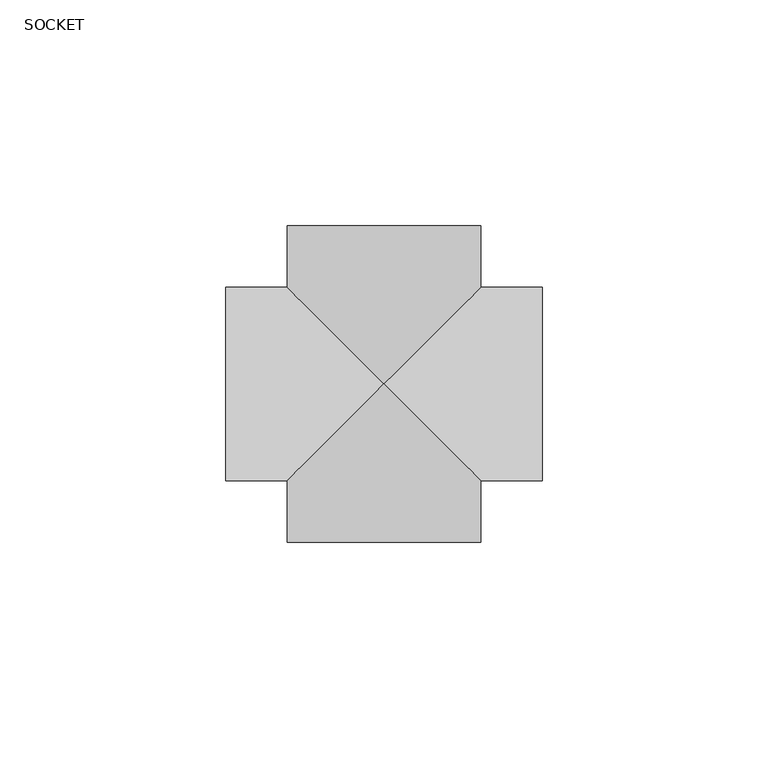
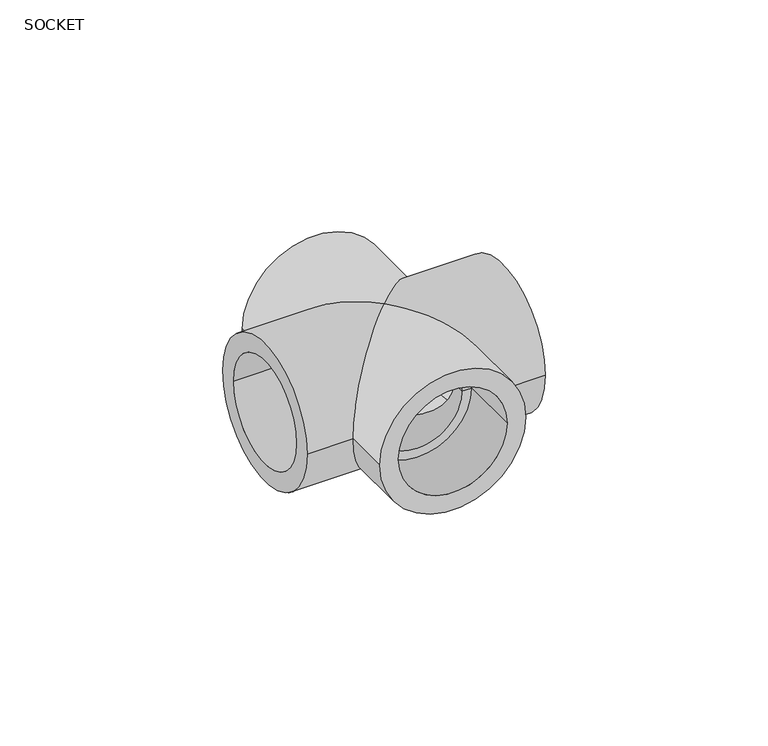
"""IFC4 building model written with IfcOpenShell, lengths in millimetres: pipe fitting geometry, Aquatherm - Cross Socket : SOCKET."""

from ifc_helpers import new_model, si_unit, frame, origin, place, context, project, spatial, polyline, circle_curve, ellipse_curve, source, transform, mapped, element, save
from ifc_brep_helpers import plane_surface, cylinder_surface, revolved_surface, advanced_brep


def socket_0323a94f(model_context):
    return source(origin(), model_context, "Body", "AdvancedBrep", [
        advanced_brep(
        [(-21.463, -35.052, 0.0), (21.463, -35.052, 0.0), (16.002, -35.052, 0.0), (-16.002, -35.052, 0.0), (-21.463, 35.052, 0.0), (21.463, 35.052, 0.0), (-16.002, 35.052, 0.0), (16.002, 35.052, 0.0), (-21.463, -21.463, 0.0), (0.0, 0.0, -21.463), (21.463, -21.463, 0.0), (21.463, 21.463, 0.0), (-21.463, 21.463, 0.0), (0.0, 0.0, 21.463), (35.052, -21.463, 0.0), (35.052, 21.463, 0.0), (35.052, 16.002, 0.0), (35.052, -16.002, 0.0), (-35.052, -21.463, 0.0), (-35.052, 21.463, 0.0), (-35.052, -16.002, 0.0), (-35.052, 16.002, 0.0), (-17.018, -16.002, 0.0), (-17.018, 16.002, 0.0), (17.018, -16.002, 0.0), (17.018, 16.002, 0.0), (17.018, 13.0925455, 0.0), (17.018, -13.0925455, 0.0), (13.0925455, 13.0925455, 0.0), (0.0, 0.0, -13.0925455), (13.0925455, -13.0925455, 0.0), (-17.018, 13.0925455, 0.0), (-17.018, -13.0925455, 0.0), (-13.0925455, -13.0925455, 0.0), (-13.0925455, 13.0925455, 0.0), (0.0, 0.0, 13.0925455), (-16.002, -17.018, 0.0), (16.002, -17.018, 0.0), (-16.002, 17.018, 0.0), (16.002, 17.018, 0.0), (-13.0925455, 17.018, 0.0), (13.0925455, 17.018, 0.0), (-13.0925455, -17.018, 0.0), (13.0925455, -17.018, 0.0)],
        [
            (0, 1, circle_curve(frame((0.0, -35.052, 0.0), z_axis=(0.0, -1.0, 0.0), x_axis=(1.0, 0.0, 0.0)), 21.463)),
            (1, 0, circle_curve(frame((0.0, -35.052, 0.0), z_axis=(0.0, -1.0, 0.0), x_axis=(1.0, 0.0, 0.0)), 21.463)),
            (2, 3, circle_curve(frame((0.0, -35.052, 0.0), z_axis=(0.0, 1.0, 0.0), x_axis=(1.0, 0.0, 0.0)), 16.002)),
            (3, 2, circle_curve(frame((0.0, -35.052, 0.0), z_axis=(0.0, 1.0, 0.0), x_axis=(1.0, 0.0, 0.0)), 16.002)),
            (4, 5, circle_curve(frame((0.0, 35.052, 0.0), z_axis=(0.0, 1.0, 0.0), x_axis=(1.0, 0.0, 0.0)), 21.463)),
            (5, 4, circle_curve(frame((0.0, 35.052, 0.0), z_axis=(0.0, 1.0, 0.0), x_axis=(1.0, 0.0, 0.0)), 21.463)),
            (6, 7, circle_curve(frame((0.0, 35.052, 0.0), z_axis=(0.0, -1.0, 0.0), x_axis=(1.0, 0.0, 0.0)), 16.002)),
            (7, 6, circle_curve(frame((0.0, 35.052, 0.0), z_axis=(0.0, -1.0, 0.0), x_axis=(1.0, 0.0, 0.0)), 16.002)),
            (0, 8),
            (8, 9, ellipse_curve(frame((0.0, 0.0, 0.0), z_axis=(0.7071067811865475, -0.7071067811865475, 0.0), x_axis=(-0.7071067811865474, -0.7071067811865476, 0.0)), 30.3532657, 21.463)),
            (9, 10, ellipse_curve(frame((0.0, 0.0, 0.0), z_axis=(-0.7071067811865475, -0.7071067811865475, 0.0), x_axis=(0.7071067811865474, -0.7071067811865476, 0.0)), 30.3532657, 21.463)),
            (10, 1),
            (5, 11),
            (11, 9, ellipse_curve(frame((0.0, 0.0, 0.0), z_axis=(-0.7071067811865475, 0.7071067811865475, 0.0), x_axis=(-0.7071067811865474, -0.7071067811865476, 0.0)), 30.3532657, 21.463)),
            (9, 12, ellipse_curve(frame((0.0, 0.0, 0.0), z_axis=(0.7071067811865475, 0.7071067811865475, 0.0), x_axis=(0.7071067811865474, -0.7071067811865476, 0.0)), 30.3532657, 21.463)),
            (12, 4),
            (10, 13, ellipse_curve(frame((0.0, 0.0, 0.0), z_axis=(-0.7071067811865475, -0.7071067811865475, 0.0), x_axis=(0.7071067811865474, -0.7071067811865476, 0.0)), 30.3532657, 21.463)),
            (13, 8, ellipse_curve(frame((0.0, 0.0, 0.0), z_axis=(0.7071067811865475, -0.7071067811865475, 0.0), x_axis=(-0.7071067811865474, -0.7071067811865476, 0.0)), 30.3532657, 21.463)),
            (12, 13, ellipse_curve(frame((0.0, 0.0, 0.0), z_axis=(0.7071067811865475, 0.7071067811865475, 0.0), x_axis=(0.7071067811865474, -0.7071067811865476, 0.0)), 30.3532657, 21.463)),
            (13, 11, ellipse_curve(frame((0.0, 0.0, 0.0), z_axis=(-0.7071067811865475, 0.7071067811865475, 0.0), x_axis=(-0.7071067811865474, -0.7071067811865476, 0.0)), 30.3532657, 21.463)),
            (14, 15, circle_curve(frame((35.052, 0.0, 0.0), z_axis=(1.0, 0.0, 0.0), x_axis=(0.0, 1.0, 0.0)), 21.463)),
            (15, 14, circle_curve(frame((35.052, 0.0, 0.0), z_axis=(1.0, 0.0, 0.0), x_axis=(0.0, 1.0, 0.0)), 21.463)),
            (16, 17, circle_curve(frame((35.052, 0.0, 0.0), z_axis=(-1.0, 0.0, 0.0), x_axis=(0.0, 1.0, 0.0)), 16.002)),
            (17, 16, circle_curve(frame((35.052, 0.0, 0.0), z_axis=(-1.0, 0.0, 0.0), x_axis=(0.0, 1.0, 0.0)), 16.002)),
            (18, 19, circle_curve(frame((-35.052, 0.0, 0.0), z_axis=(-1.0, 0.0, 0.0), x_axis=(0.0, 1.0, 0.0)), 21.463)),
            (19, 18, circle_curve(frame((-35.052, 0.0, 0.0), z_axis=(-1.0, 0.0, 0.0), x_axis=(0.0, 1.0, 0.0)), 21.463)),
            (20, 21, circle_curve(frame((-35.052, 0.0, 0.0), z_axis=(1.0, 0.0, 0.0), x_axis=(0.0, 1.0, 0.0)), 16.002)),
            (21, 20, circle_curve(frame((-35.052, 0.0, 0.0), z_axis=(1.0, 0.0, 0.0), x_axis=(0.0, 1.0, 0.0)), 16.002)),
            (14, 10),
            (11, 15),
            (19, 12),
            (8, 18),
            (20, 22),
            (22, 23, circle_curve(frame((-17.018, 0.0, 0.0), z_axis=(1.0, 0.0, 0.0), x_axis=(0.0, 1.0, 0.0)), 16.002)),
            (23, 21),
            (23, 22, circle_curve(frame((-17.018, 0.0, 0.0), z_axis=(1.0, 0.0, 0.0), x_axis=(0.0, 1.0, 0.0)), 16.002)),
            (24, 17),
            (16, 25),
            (25, 24, circle_curve(frame((17.018, 0.0, 0.0), z_axis=(-1.0, 0.0, 0.0), x_axis=(0.0, 1.0, 0.0)), 16.002)),
            (24, 25, circle_curve(frame((17.018, 0.0, 0.0), z_axis=(-1.0, 0.0, 0.0), x_axis=(0.0, 1.0, 0.0)), 16.002)),
            (25, 26),
            (26, 27, circle_curve(frame((17.018, 0.0, 0.0), z_axis=(-1.0, 0.0, 0.0), x_axis=(0.0, 1.0, 0.0)), 13.0925455)),
            (27, 24),
            (27, 26, circle_curve(frame((17.018, 0.0, 0.0), z_axis=(-1.0, 0.0, 0.0), x_axis=(0.0, 1.0, 0.0)), 13.0925455)),
            (26, 28),
            (28, 29, ellipse_curve(frame((0.0, 0.0, 0.0), z_axis=(-0.7071067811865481, 0.7071067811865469, 0.0), x_axis=(-0.7071067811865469, -0.7071067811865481, 0.0)), 18.5156553, 13.0925455)),
            (29, 30, ellipse_curve(frame((0.0, 0.0, 0.0), z_axis=(-0.7071067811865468, -0.7071067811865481, 0.0), x_axis=(-0.7071067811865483, 0.7071067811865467, 0.0)), 18.5156553, 13.0925455)),
            (30, 27),
            (31, 32, circle_curve(frame((-17.018, 0.0, 0.0), z_axis=(-1.0, 0.0, 0.0), x_axis=(0.0, 1.0, 0.0)), 13.0925455)),
            (32, 33),
            (33, 29, ellipse_curve(frame((0.0, 0.0, 0.0), z_axis=(0.7071067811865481, -0.7071067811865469, 0.0), x_axis=(-0.7071067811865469, -0.7071067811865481, 0.0)), 18.5156553, 13.0925455)),
            (29, 34, ellipse_curve(frame((0.0, 0.0, 0.0), z_axis=(0.7071067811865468, 0.7071067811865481, 0.0), x_axis=(-0.7071067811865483, 0.7071067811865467, 0.0)), 18.5156553, 13.0925455)),
            (34, 31),
            (30, 35, ellipse_curve(frame((0.0, 0.0, 0.0), z_axis=(-0.7071067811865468, -0.7071067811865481, 0.0), x_axis=(-0.7071067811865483, 0.7071067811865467, 0.0)), 18.5156553, 13.0925455)),
            (35, 28, ellipse_curve(frame((0.0, 0.0, 0.0), z_axis=(-0.7071067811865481, 0.7071067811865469, 0.0), x_axis=(-0.7071067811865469, -0.7071067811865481, 0.0)), 18.5156553, 13.0925455)),
            (32, 31, circle_curve(frame((-17.018, 0.0, 0.0), z_axis=(-1.0, 0.0, 0.0), x_axis=(0.0, 1.0, 0.0)), 13.0925455)),
            (34, 35, ellipse_curve(frame((0.0, 0.0, 0.0), z_axis=(0.7071067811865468, 0.7071067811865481, 0.0), x_axis=(-0.7071067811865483, 0.7071067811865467, 0.0)), 18.5156553, 13.0925455)),
            (35, 33, ellipse_curve(frame((0.0, 0.0, 0.0), z_axis=(0.7071067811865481, -0.7071067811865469, 0.0), x_axis=(-0.7071067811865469, -0.7071067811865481, 0.0)), 18.5156553, 13.0925455)),
            (22, 32),
            (31, 23),
            (36, 3),
            (2, 37),
            (37, 36, circle_curve(frame((0.0, -17.018, 0.0), z_axis=(0.0, 1.0, 0.0), x_axis=(1.0, 0.0, 0.0)), 16.002)),
            (36, 37, circle_curve(frame((0.0, -17.018, 0.0), z_axis=(0.0, 1.0, 0.0), x_axis=(1.0, 0.0, 0.0)), 16.002)),
            (6, 38),
            (38, 39, circle_curve(frame((0.0, 17.018, 0.0), z_axis=(0.0, -1.0, 0.0), x_axis=(1.0, 0.0, 0.0)), 16.002)),
            (39, 7),
            (39, 38, circle_curve(frame((0.0, 17.018, 0.0), z_axis=(0.0, -1.0, 0.0), x_axis=(1.0, 0.0, 0.0)), 16.002)),
            (38, 40),
            (40, 41, circle_curve(frame((0.0, 17.018, 0.0), z_axis=(0.0, -1.0, 0.0), x_axis=(1.0, 0.0, 0.0)), 13.0925455)),
            (41, 39),
            (41, 40, circle_curve(frame((0.0, 17.018, 0.0), z_axis=(0.0, -1.0, 0.0), x_axis=(1.0, 0.0, 0.0)), 13.0925455)),
            (40, 34),
            (28, 41),
            (42, 43, circle_curve(frame((0.0, -17.018, 0.0), z_axis=(0.0, -1.0, 0.0), x_axis=(1.0, 0.0, 0.0)), 13.0925455)),
            (43, 30),
            (33, 42),
            (43, 42, circle_curve(frame((0.0, -17.018, 0.0), z_axis=(0.0, -1.0, 0.0), x_axis=(1.0, 0.0, 0.0)), 13.0925455)),
            (37, 43),
            (42, 36),
        ],
        [
            plane_surface(frame((21.463, -35.052, 0.0), z_axis=(0.0, -1.0, 0.0), x_axis=(0.0, 0.0, 1.0))),
            plane_surface(frame((21.463, 35.052, 0.0), z_axis=(0.0, 1.0, 0.0), x_axis=(0.0, 0.0, -1.0))),
            cylinder_surface(frame((0.0, 35.052, 0.0), z_axis=(0.0, -1.0, 0.0), x_axis=(1.0, 0.0, 0.0)), 21.463),
            plane_surface(frame((35.052, 21.463, 0.0), z_axis=(1.0, 0.0, 0.0), x_axis=(0.0, 0.0, 1.0))),
            plane_surface(frame((-35.052, 21.463, 0.0), z_axis=(-1.0, 0.0, 0.0), x_axis=(0.0, 0.0, -1.0))),
            cylinder_surface(frame((-35.052, 0.0, 0.0), z_axis=(1.0, 0.0, 0.0), x_axis=(0.0, 1.0, 0.0)), 21.463),
            revolved_surface(polyline([(-35.052, 16.002, 0.0), (-17.018, 16.002, 0.0)]), (-49.8099939, 0.0, 0.0), (-1.0, 0.0, 0.0)),
            revolved_surface(polyline([(17.017999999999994, 16.002, 0.0), (35.052, 16.002, 0.0)]), (-49.8099939, 0.0, 0.0), (-1.0, 0.0, 0.0)),
            plane_surface(frame((17.018, 0.0, 0.0), z_axis=(1.0, 0.0, 0.0), x_axis=(0.0, 1.0, 0.0))),
            revolved_surface(polyline([(-13.092545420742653, 13.0925455, 0.0), (17.017999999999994, 13.0925455, 0.0)]), (-49.8099939, 0.0, 0.0), (-1.0, 0.0, 0.0)),
            revolved_surface(polyline([(-17.018, 13.0925455, 0.0), (13.092545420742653, 13.0925455, 0.0)]), (-49.8099939, 0.0, 0.0), (-1.0, 0.0, 0.0)),
            plane_surface(frame((-17.018, 0.0, 0.0), z_axis=(-1.0, 0.0, 0.0), x_axis=(0.0, 1.0, 0.0))),
            revolved_surface(polyline([(16.002, -17.018, 0.0), (16.002, -35.052, 0.0)]), (0.0, -49.8099939, 0.0), (0.0, 1.0, 0.0)),
            revolved_surface(polyline([(16.002, 35.052, 0.0), (16.002, 17.017999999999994, 0.0)]), (0.0, -49.8099939, 0.0), (0.0, 1.0, 0.0)),
            plane_surface(frame((0.0, 17.018, 0.0), z_axis=(0.0, 1.0, 0.0), x_axis=(1.0, 0.0, 0.0))),
            revolved_surface(polyline([(13.0925455, 17.017999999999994, 0.0), (13.0925455, -13.092545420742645, 0.0)]), (0.0, -49.8099939, 0.0), (0.0, 1.0, 0.0)),
            revolved_surface(polyline([(13.0925455, 13.092545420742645, 0.0), (13.0925455, -17.018, 0.0)]), (0.0, -49.8099939, 0.0), (0.0, 1.0, 0.0)),
            plane_surface(frame((0.0, -17.018, 0.0), z_axis=(0.0, -1.0, 0.0), x_axis=(1.0, 0.0, 0.0))),
        ],
        [
            (0, [[1, 2], [3, 4]]),
            (1, [[5, 6], [7, 8]]),
            (2, [[-1, 9, 10, 11, 12]]),
            (2, [[-6, 13, 14, 15, 16]]),
            (2, [[-2, -12, 17, 18, -9]]),
            (2, [[-5, -16, 19, 20, -13]]),
            (3, [[21, 22], [23, 24]]),
            (4, [[25, 26], [27, 28]]),
            (5, [[-21, 29, -11, -14, 30]]),
            (5, [[-26, 31, -15, -10, 32]]),
            (5, [[-22, -30, -20, -17, -29]]),
            (5, [[-25, -32, -18, -19, -31]]),
            (6, [[33, 34, 35, -27]]),
            (6, [[-33, -28, -35, 36]]),
            (7, [[37, -23, 38, 39]]),
            (7, [[-37, 40, -38, -24]]),
            (8, [[-39, 41, 42, 43]]),
            (8, [[-40, -43, 44, -41]]),
            (9, [[-42, 45, 46, 47, 48]]),
            (10, [[49, 50, 51, 52, 53]]),
            (9, [[-44, -48, 54, 55, -45]]),
            (10, [[56, -53, 57, 58, -50]]),
            (11, [[-34, 59, -49, 60]]),
            (11, [[-36, -60, -56, -59]]),
            (12, [[61, -3, 62, 63]]),
            (12, [[-61, 64, -62, -4]]),
            (13, [[65, 66, 67, -7]]),
            (13, [[-65, -8, -67, 68]]),
            (14, [[-66, 69, 70, 71]]),
            (14, [[-68, -71, 72, -69]]),
            (15, [[-70, 73, -52, -46, 74]]),
            (16, [[75, 76, -47, -51, 77]]),
            (15, [[-72, -74, -55, -57, -73]]),
            (16, [[78, -77, -58, -54, -76]]),
            (17, [[-63, 79, -75, 80]]),
            (17, [[-64, -80, -78, -79]]),
        ],
    ),
    ])


if __name__ == "__main__":
    model = new_model("IFC4")
    model_context = context("Model", 3, world=origin())
    ifc_project = project(units=[si_unit("LENGTHUNIT", "METRE", prefix="MILLI")], contexts=[model_context])
    site = spatial("IfcSite", under=ifc_project)
    building = spatial("IfcBuilding", under=site)
    placement = place(None, origin())
    ifc_socket_shape = socket_0323a94f(model_context)
    element("IfcPipeFitting", 1, ObjectType="Aquatherm - Cross Socket : SOCKET", at=placement, inside=building, context=model_context, shape_type="MappedRepresentation", body=[
        mapped(ifc_socket_shape, transform((0.0, 0.0, 0.0), x_axis=(1.0, 0.0, 0.0), y_axis=(0.0, 1.0, 0.0), z_axis=(0.0, 0.0, 1.0))),
    ])
    save(model, "model.ifc")
